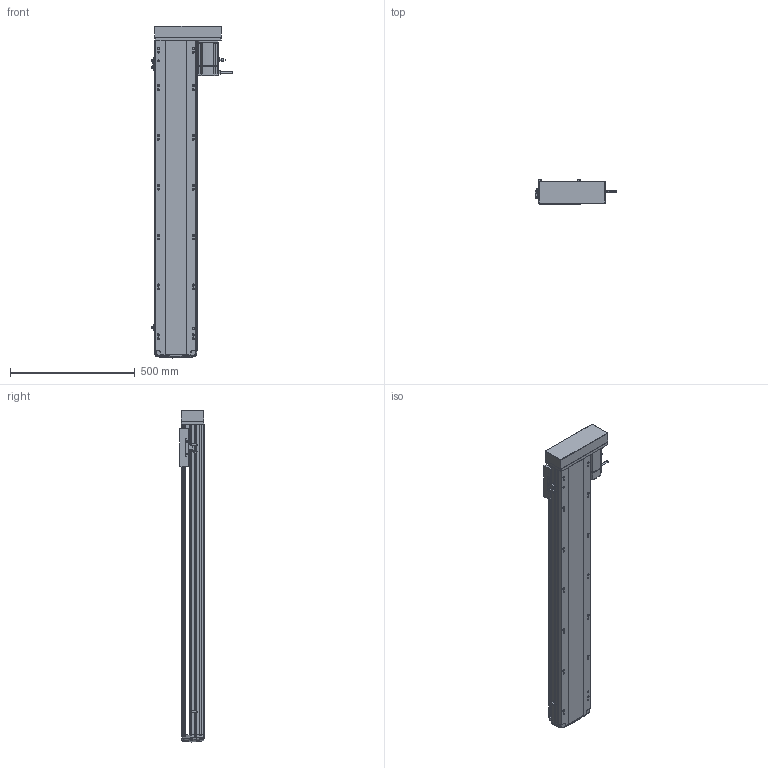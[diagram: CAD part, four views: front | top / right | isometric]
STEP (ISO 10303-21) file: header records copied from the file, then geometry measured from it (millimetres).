
FILE_DESCRIPTION (( 'STEP AP214' ), '1' );
FILE_NAME ('RTH17-XX-1050-L-M75-C4.STEP', '2025-10-24T10:35:51', ( '' ), ( '' ), 'SwSTEP 2.0', 'SolidWorks 2018', '' );
FILE_SCHEMA (( 'AUTOMOTIVE_DESIGN' ));
Length unit declared in the file: millimetre
Products named in the file (10): N_RTH17-L-018盖子^RTH17-XX-XX-L-M75-C4（方程式）; N_RTH17-GY-001P^RTH17-XX-XX-L-M75-C4（方程式）; N_RTH17-M-011底座^RTH17-XX-XX-L-M75-C4（方程式）; RTH17-XX-1050-L-M75-C4; N_OMRON EE-SX672 換覜ん^RTH17-XX-XX-L-M75-C4ㄗ源最宒ㄘ; N_RTH-L-012 感应片(外置)^RTH17-XX-XX-L-M75-C4（方程式）; N_RTH17-L-008-P75电机安装板左转折^RTH17-XX-XX-L-M75-C4（方程式）; N_RTH17-M-007上盖^RTH17-XX-XX-L-M75-C4（方程式）; N_M75^RTH17-XX-XX-L-M75-C4（方程式）; N_RTH17-E-004丝杆螺母连接座^RTH17-XX-XX-L-M75-C4（方程式）
Assembly tree (11 placements, depth 2):
  RTH17-XX-1050-L-M75-C4
    N_RTH17-M-011底座^RTH17-XX-XX-L-M75-C4（方程式）
    N_RTH17-M-007上盖^RTH17-XX-XX-L-M75-C4（方程式）
    N_M75^RTH17-XX-XX-L-M75-C4（方程式）
    N_OMRON EE-SX672 換覜ん^RTH17-XX-XX-L-M75-C4ㄗ源最宒ㄘ  x3
    N_RTH-L-012 感应片(外置)^RTH17-XX-XX-L-M75-C4（方程式）
    N_RTH17-L-008-P75电机安装板左转折^RTH17-XX-XX-L-M75-C4（方程式）
    N_RTH17-L-018盖子^RTH17-XX-XX-L-M75-C4（方程式）
    N_RTH17-E-004丝杆螺母连接座^RTH17-XX-XX-L-M75-C4（方程式）
    N_RTH17-GY-001P^RTH17-XX-XX-L-M75-C4（方程式）
Bounding box: 326.7 x 97 x 1332.99 mm (x, y, z)
Volume: 11608133.5 mm3; surface area: 1452128.2 mm2
Topology: 13 solids, 15 shells, 1773 faces, 4889 edges, 3166 vertices
Faces by surface type: plane 835, cylinder 524, bspline 377, cone 28, torus 9
Entity records: 51993 total; most frequent: CARTESIAN_POINT 20749, ORIENTED_EDGE 6802, DIRECTION 5653, EDGE_CURVE 3405, VERTEX_POINT 2202, AXIS2_PLACEMENT_3D 1909, VECTOR 1835, LINE 1835
